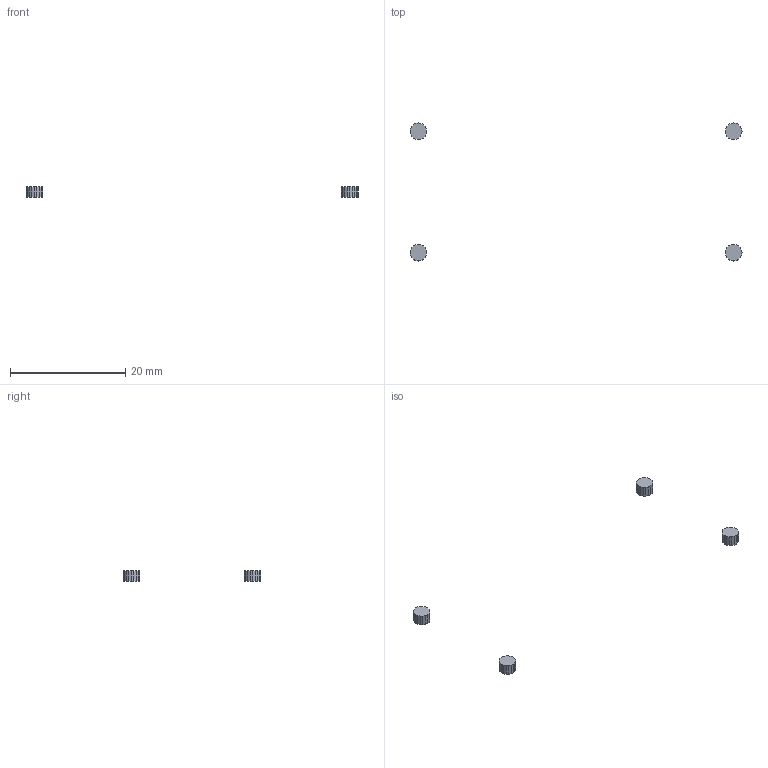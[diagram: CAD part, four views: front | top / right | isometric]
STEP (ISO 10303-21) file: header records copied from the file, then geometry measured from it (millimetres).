
FILE_DESCRIPTION(('AVO Performance Horse - montaje de la cincha (B-rep poliedrico)'),'2;1');
FILE_NAME('AVO_CINCHA_R6_9_tacos_precarga_TPU85A_x4','2026-11-15T12:00:00',('AVO Performance Horse'),('AVO Performance Horse'),'avo_cad.py','avo_cad.py (numpy)','');
FILE_SCHEMA(('AUTOMOTIVE_DESIGN { 1 0 10303 214 1 1 1 1 }'));
Length unit declared in the file: millimetre
Products named in the file (1): AVO_CINCHA_R6_9_tacos_precarga_TPU85A_x4
Bounding box: 57.5 x 23.9 x 1.85 mm (x, y, z)
Volume: 48.1 mm3; surface area: 119.1 mm2
Topology: 4 solids, 4 shells, 88 faces, 240 edges, 160 vertices
Faces by surface type: plane 88
Entity records: 2010 total; most frequent: ORIENTED_EDGE 480, VECTOR 240, LINE 240, EDGE_CURVE 240, CARTESIAN_POINT 161, VERTEX_POINT 160, AXIS2_PLACEMENT_3D 89, EDGE_LOOP 88
